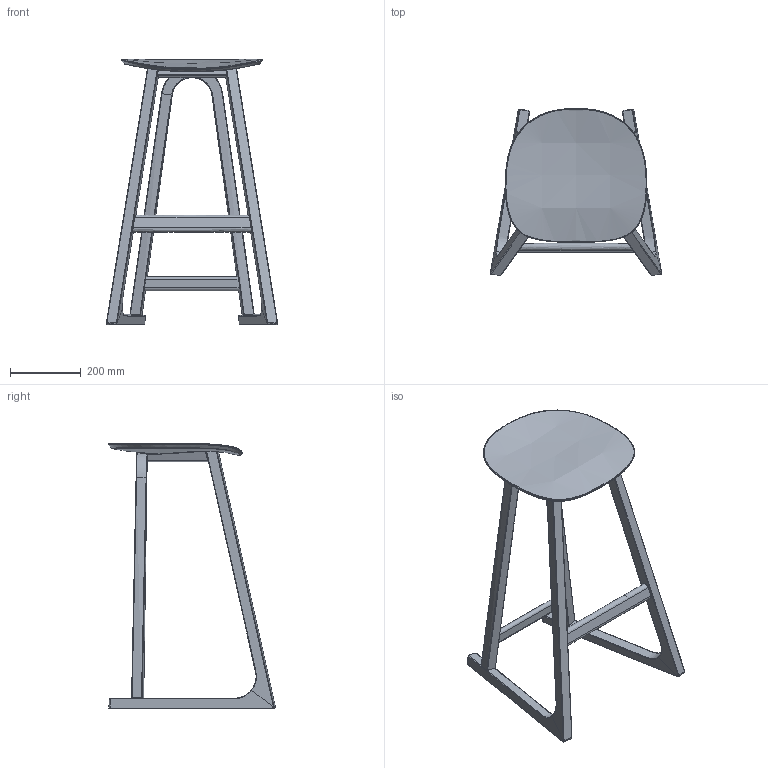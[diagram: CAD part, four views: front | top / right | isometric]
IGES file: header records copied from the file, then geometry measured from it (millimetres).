
Global section: file name: E:\Alessio_SK_PC\PROGETTI\Cantarutti - Sprint\Sprint 2020 - 2D+3D\Sprint2020_Alto_3D.igs; native system: Rhinoceros ( Sep 13 2016 ); preprocessor: Trout Lake IGES 012 Sep 13 2016; date: 200417.093438; units: millimetre
Bounding box: 484.49 x 471.43 x 749.92 mm (x, y, z)
Surface area: 862552.9 mm2 (no closed solid volume)
Topology: 0 solids, 0 shells, 262 faces, 1343 edges, 1343 vertices
Faces by surface type: bspline 262
